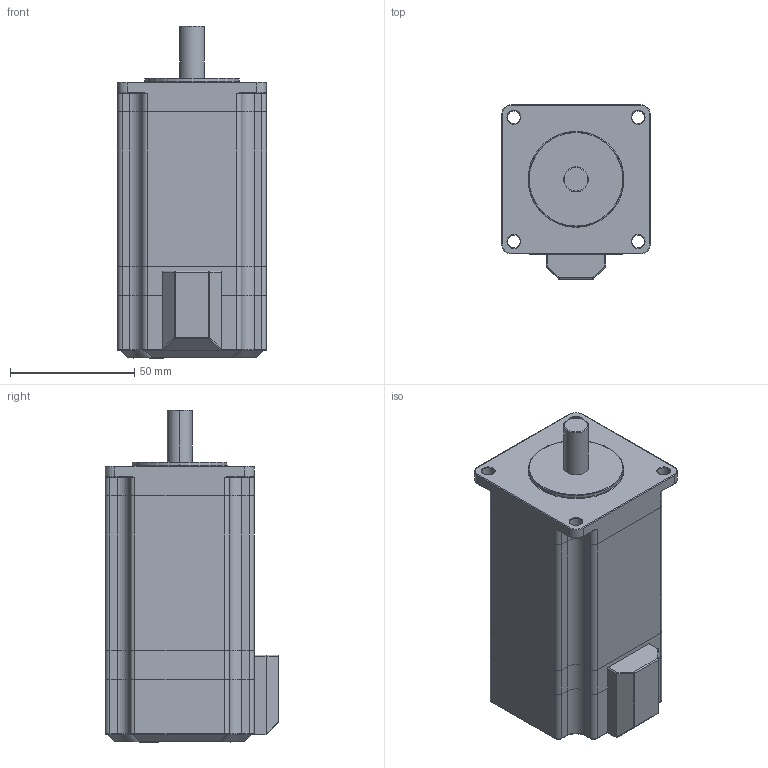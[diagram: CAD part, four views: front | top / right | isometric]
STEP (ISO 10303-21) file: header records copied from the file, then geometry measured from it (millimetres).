
FILE_DESCRIPTION (( 'STEP AP214' ), '1' );
FILE_NAME ('NEMA-24_v1.0.STEP', '2024-02-05T11:27:34', ( '' ), ( '' ), 'SwSTEP 2.0', 'SolidWorks 2023', '' );
FILE_SCHEMA (( 'AUTOMOTIVE_DESIGN' ));
Length unit declared in the file: millimetre
Products named in the file (1): NEMA-24_v1.0
Bounding box: 60 x 70 x 133.6 mm (x, y, z)
Volume: 366603.8 mm3; surface area: 54367.8 mm2
Topology: 6 solids, 6 shells, 289 faces, 708 edges, 422 vertices
Faces by surface type: cylinder 116, plane 77, torus 54, bspline 36, sphere 6
Entity records: 9877 total; most frequent: CARTESIAN_POINT 3141, DIRECTION 1427, ORIENTED_EDGE 1394, EDGE_CURVE 697, AXIS2_PLACEMENT_3D 560, VERTEX_POINT 422, LINE 307, VECTOR 307
